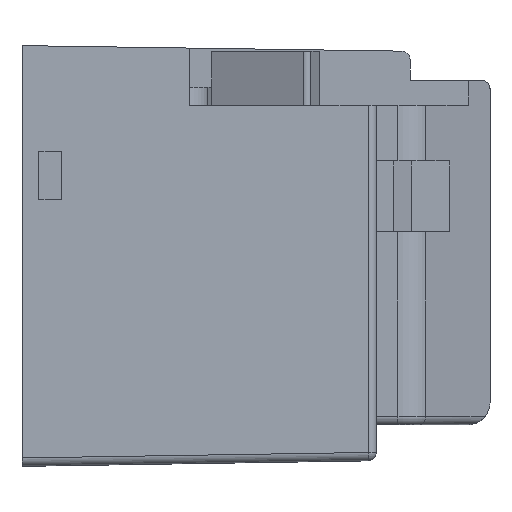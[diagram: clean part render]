
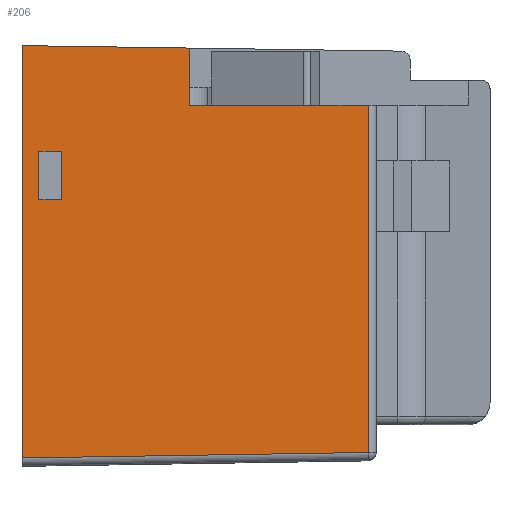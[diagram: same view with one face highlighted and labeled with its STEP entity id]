
A CAD part, left-side view. The second image highlights one B-rep face of the part: STEP entity #206.
In plain terms, the highlighted planar face has unit normal (-1, -0.016, 0).
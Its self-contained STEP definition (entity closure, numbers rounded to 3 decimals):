
#206=ADVANCED_FACE('',(#373,#374),#303,.T.);
#303=PLANE('',#1840);
#373=FACE_BOUND('',#381,.T.);
#374=FACE_BOUND('',#382,.T.);
#381=EDGE_LOOP('',(#482,#483,#484,#485,#486,#487));
#382=EDGE_LOOP('',(#488,#489,#490,#491));
#482=ORIENTED_EDGE('',*,*,#1159,.T.);
#483=ORIENTED_EDGE('',*,*,#1160,.T.);
#484=ORIENTED_EDGE('',*,*,#1161,.F.);
#485=ORIENTED_EDGE('',*,*,#1162,.F.);
#486=ORIENTED_EDGE('',*,*,#1163,.T.);
#487=ORIENTED_EDGE('',*,*,#1164,.F.);
#488=ORIENTED_EDGE('',*,*,#1165,.T.);
#489=ORIENTED_EDGE('',*,*,#1166,.T.);
#490=ORIENTED_EDGE('',*,*,#1167,.T.);
#491=ORIENTED_EDGE('',*,*,#1168,.T.);
#994=VERTEX_POINT('',#2467);
#995=VERTEX_POINT('',#2468);
#996=VERTEX_POINT('',#2470);
#997=VERTEX_POINT('',#2472);
#998=VERTEX_POINT('',#2474);
#999=VERTEX_POINT('',#2476);
#1000=VERTEX_POINT('',#2479);
#1001=VERTEX_POINT('',#2480);
#1002=VERTEX_POINT('',#2482);
#1003=VERTEX_POINT('',#2484);
#1159=EDGE_CURVE('',#994,#995,#1415,.T.);
#1160=EDGE_CURVE('',#995,#996,#1416,.T.);
#1161=EDGE_CURVE('',#997,#996,#1417,.T.);
#1162=EDGE_CURVE('',#998,#997,#1418,.T.);
#1163=EDGE_CURVE('',#998,#999,#1419,.T.);
#1164=EDGE_CURVE('',#994,#999,#1420,.T.);
#1165=EDGE_CURVE('',#1000,#1001,#1421,.T.);
#1166=EDGE_CURVE('',#1001,#1002,#1422,.T.);
#1167=EDGE_CURVE('',#1002,#1003,#1423,.T.);
#1168=EDGE_CURVE('',#1003,#1000,#1424,.T.);
#1415=LINE('',#2466,#1627);
#1416=LINE('',#2469,#1628);
#1417=LINE('',#2471,#1629);
#1418=LINE('',#2473,#1630);
#1419=LINE('',#2475,#1631);
#1420=LINE('',#2477,#1632);
#1421=LINE('',#2478,#1633);
#1422=LINE('',#2481,#1634);
#1423=LINE('',#2483,#1635);
#1424=LINE('',#2485,#1636);
#1627=VECTOR('',#1979,1.);
#1628=VECTOR('',#1980,1.);
#1629=VECTOR('',#1981,1.);
#1630=VECTOR('',#1982,1.);
#1631=VECTOR('',#1983,1.);
#1632=VECTOR('',#1984,1.);
#1633=VECTOR('',#1985,1.);
#1634=VECTOR('',#1986,1.);
#1635=VECTOR('',#1987,1.);
#1636=VECTOR('',#1988,1.);
#1840=AXIS2_PLACEMENT_3D('',#2486,#1989,#1990);
#1979=DIRECTION('',(0.016,-1.,0.016));
#1980=DIRECTION('',(0.,0.,1.));
#1981=DIRECTION('',(0.016,-1.,0.));
#1982=DIRECTION('',(0.,0.,-1.));
#1983=DIRECTION('',(-0.016,1.,0.014));
#1984=DIRECTION('',(0.,0.,1.));
#1985=DIRECTION('',(0.016,-1.,0.));
#1986=DIRECTION('',(0.,0.,-1.));
#1987=DIRECTION('',(-0.016,1.,0.));
#1988=DIRECTION('',(0.,0.,1.));
#1989=DIRECTION('',(-1.,-0.016,0.));
#1990=DIRECTION('',(0.,0.,1.));
#2466=CARTESIAN_POINT('',(-149.191,41.185,-36.641));
#2467=CARTESIAN_POINT('',(-149.201,41.767,-36.65));
#2468=CARTESIAN_POINT('',(-148.712,11.005,-36.162));
#2469=CARTESIAN_POINT('',(-148.712,11.005,-5.3));
#2470=CARTESIAN_POINT('',(-148.712,11.005,-5.3));
#2471=CARTESIAN_POINT('',(-148.681,9.026,-5.3));
#2472=CARTESIAN_POINT('',(-148.964,26.867,-5.3));
#2473=CARTESIAN_POINT('',(-148.964,26.867,0.));
#2474=CARTESIAN_POINT('',(-148.964,26.867,-0.216));
#2475=CARTESIAN_POINT('',(-149.201,41.767,0.));
#2476=CARTESIAN_POINT('',(-149.201,41.767,0.));
#2477=CARTESIAN_POINT('',(-149.201,41.767,-37.4));
#2478=CARTESIAN_POINT('',(-149.201,41.767,-9.4));
#2479=CARTESIAN_POINT('',(-149.177,40.267,-9.4));
#2480=CARTESIAN_POINT('',(-149.145,38.267,-9.4));
#2481=CARTESIAN_POINT('',(-149.145,38.267,0.));
#2482=CARTESIAN_POINT('',(-149.145,38.267,-13.7));
#2483=CARTESIAN_POINT('',(-149.201,41.767,-13.7));
#2484=CARTESIAN_POINT('',(-149.177,40.267,-13.7));
#2485=CARTESIAN_POINT('',(-149.177,40.267,0.));
#2486=CARTESIAN_POINT('',(-149.201,41.767,0.));
